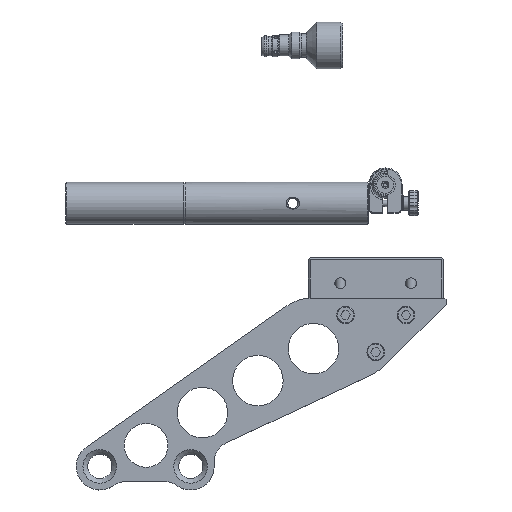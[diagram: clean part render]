
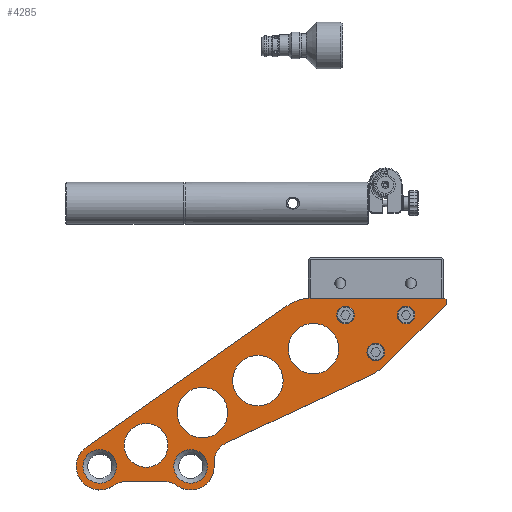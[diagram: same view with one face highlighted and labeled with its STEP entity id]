
A CAD part, top view. The second image highlights one B-rep face of the part: STEP entity #4285.
In plain terms, the highlighted planar face has unit normal (0, 0, 1).
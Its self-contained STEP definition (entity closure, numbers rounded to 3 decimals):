
#1212=LINE('',#22123,#2529);
#1216=LINE('',#22131,#2533);
#1218=LINE('',#22135,#2535);
#1220=LINE('',#22139,#2537);
#1222=LINE('',#22143,#2539);
#1225=LINE('',#22151,#2542);
#1228=LINE('',#22159,#2545);
#1232=LINE('',#22171,#2549);
#2529=VECTOR('',#16851,1.);
#2533=VECTOR('',#16857,1.);
#2535=VECTOR('',#16861,1.);
#2537=VECTOR('',#16865,1.);
#2539=VECTOR('',#16869,1.);
#2542=VECTOR('',#16878,1.);
#2545=VECTOR('',#16887,1.);
#2549=VECTOR('',#16901,1.);
#3544=FACE_BOUND('',#6250,.T.);
#3545=FACE_BOUND('',#6251,.T.);
#3546=FACE_BOUND('',#6252,.T.);
#3547=FACE_BOUND('',#6253,.T.);
#3548=FACE_BOUND('',#6254,.T.);
#3549=FACE_BOUND('',#6255,.T.);
#3550=FACE_BOUND('',#6256,.T.);
#3551=FACE_BOUND('',#6257,.T.);
#3552=FACE_BOUND('',#6258,.T.);
#3553=FACE_BOUND('',#6259,.T.);
#4285=ADVANCED_FACE('',(#3544,#3545,#3546,#3547,#3548,#3549,#3550,#3551,
#3552,#3553),#4810,.F.);
#4810=PLANE('',#14015);
#6250=EDGE_LOOP('',(#9370));
#6251=EDGE_LOOP('',(#9371));
#6252=EDGE_LOOP('',(#9372));
#6253=EDGE_LOOP('',(#9373));
#6254=EDGE_LOOP('',(#9374));
#6255=EDGE_LOOP('',(#9375));
#6256=EDGE_LOOP('',(#9376));
#6257=EDGE_LOOP('',(#9377));
#6258=EDGE_LOOP('',(#9378));
#6259=EDGE_LOOP('',(#9379,#9380,#9381,#9382,#9383,#9384,#9385,#9386,#9387,
#9388,#9389,#9390,#9391,#9392,#9393));
#9370=ORIENTED_EDGE('',*,*,#12640,.T.);
#9371=ORIENTED_EDGE('',*,*,#12641,.T.);
#9372=ORIENTED_EDGE('',*,*,#12642,.T.);
#9373=ORIENTED_EDGE('',*,*,#12643,.T.);
#9374=ORIENTED_EDGE('',*,*,#12644,.T.);
#9375=ORIENTED_EDGE('',*,*,#12645,.T.);
#9376=ORIENTED_EDGE('',*,*,#12646,.T.);
#9377=ORIENTED_EDGE('',*,*,#12647,.T.);
#9378=ORIENTED_EDGE('',*,*,#12648,.T.);
#9379=ORIENTED_EDGE('',*,*,#12615,.F.);
#9380=ORIENTED_EDGE('',*,*,#12649,.T.);
#9381=ORIENTED_EDGE('',*,*,#12611,.F.);
#9382=ORIENTED_EDGE('',*,*,#12639,.F.);
#9383=ORIENTED_EDGE('',*,*,#12637,.F.);
#9384=ORIENTED_EDGE('',*,*,#12635,.F.);
#9385=ORIENTED_EDGE('',*,*,#12633,.F.);
#9386=ORIENTED_EDGE('',*,*,#12631,.F.);
#9387=ORIENTED_EDGE('',*,*,#12629,.F.);
#9388=ORIENTED_EDGE('',*,*,#12627,.F.);
#9389=ORIENTED_EDGE('',*,*,#12625,.F.);
#9390=ORIENTED_EDGE('',*,*,#12623,.F.);
#9391=ORIENTED_EDGE('',*,*,#12621,.F.);
#9392=ORIENTED_EDGE('',*,*,#12619,.F.);
#9393=ORIENTED_EDGE('',*,*,#12617,.F.);
#10965=VERTEX_POINT('',#22124);
#10966=VERTEX_POINT('',#22125);
#10967=VERTEX_POINT('',#22130);
#10968=VERTEX_POINT('',#22132);
#10969=VERTEX_POINT('',#22136);
#10970=VERTEX_POINT('',#22140);
#10971=VERTEX_POINT('',#22144);
#10972=VERTEX_POINT('',#22148);
#10973=VERTEX_POINT('',#22152);
#10974=VERTEX_POINT('',#22156);
#10975=VERTEX_POINT('',#22160);
#10976=VERTEX_POINT('',#22164);
#10977=VERTEX_POINT('',#22168);
#10978=VERTEX_POINT('',#22172);
#10979=VERTEX_POINT('',#22176);
#10980=VERTEX_POINT('',#22182);
#10981=VERTEX_POINT('',#22184);
#10982=VERTEX_POINT('',#22186);
#10983=VERTEX_POINT('',#22188);
#10984=VERTEX_POINT('',#22190);
#10985=VERTEX_POINT('',#22192);
#10986=VERTEX_POINT('',#22194);
#10987=VERTEX_POINT('',#22196);
#10988=VERTEX_POINT('',#22198);
#12611=EDGE_CURVE('',#10965,#10966,#1212,.T.);
#12615=EDGE_CURVE('',#10967,#10968,#1216,.T.);
#12617=EDGE_CURVE('',#10968,#10969,#1218,.T.);
#12619=EDGE_CURVE('',#10969,#10970,#1220,.T.);
#12621=EDGE_CURVE('',#10970,#10971,#1222,.T.);
#12623=EDGE_CURVE('',#10971,#10972,#13148,.T.);
#12625=EDGE_CURVE('',#10972,#10973,#1225,.T.);
#12627=EDGE_CURVE('',#10973,#10974,#13149,.T.);
#12629=EDGE_CURVE('',#10974,#10975,#1228,.T.);
#12631=EDGE_CURVE('',#10975,#10976,#13150,.T.);
#12633=EDGE_CURVE('',#10976,#10977,#13151,.T.);
#12635=EDGE_CURVE('',#10977,#10978,#1232,.T.);
#12637=EDGE_CURVE('',#10978,#10979,#13152,.T.);
#12639=EDGE_CURVE('',#10979,#10965,#13153,.T.);
#12640=EDGE_CURVE('',#10980,#10980,#13154,.T.);
#12641=EDGE_CURVE('',#10981,#10981,#13155,.T.);
#12642=EDGE_CURVE('',#10982,#10982,#13156,.T.);
#12643=EDGE_CURVE('',#10983,#10983,#13157,.T.);
#12644=EDGE_CURVE('',#10984,#10984,#13158,.T.);
#12645=EDGE_CURVE('',#10985,#10985,#13159,.T.);
#12646=EDGE_CURVE('',#10986,#10986,#13160,.T.);
#12647=EDGE_CURVE('',#10987,#10987,#13161,.T.);
#12648=EDGE_CURVE('',#10988,#10988,#13162,.T.);
#12649=EDGE_CURVE('',#10967,#10966,#13163,.T.);
#13148=CIRCLE('',#13990,30.);
#13149=CIRCLE('',#13993,12.);
#13150=CIRCLE('',#13996,14.);
#13151=CIRCLE('',#13998,12.);
#13152=CIRCLE('',#14001,12.);
#13153=CIRCLE('',#14003,14.);
#13154=CIRCLE('',#14005,5.25);
#13155=CIRCLE('',#14006,5.25);
#13156=CIRCLE('',#14007,5.25);
#13157=CIRCLE('',#14008,15.);
#13158=CIRCLE('',#14009,15.);
#13159=CIRCLE('',#14010,15.);
#13160=CIRCLE('',#14011,13.);
#13161=CIRCLE('',#14012,10.);
#13162=CIRCLE('',#14013,10.);
#13163=CIRCLE('',#14014,25.);
#13990=AXIS2_PLACEMENT_3D('',#22147,#16873,#16874);
#13993=AXIS2_PLACEMENT_3D('',#22155,#16882,#16883);
#13996=AXIS2_PLACEMENT_3D('',#22163,#16891,#16892);
#13998=AXIS2_PLACEMENT_3D('',#22167,#16896,#16897);
#14001=AXIS2_PLACEMENT_3D('',#22175,#16905,#16906);
#14003=AXIS2_PLACEMENT_3D('',#22179,#16910,#16911);
#14005=AXIS2_PLACEMENT_3D('',#22181,#16914,#16915);
#14006=AXIS2_PLACEMENT_3D('',#22183,#16916,#16917);
#14007=AXIS2_PLACEMENT_3D('',#22185,#16918,#16919);
#14008=AXIS2_PLACEMENT_3D('',#22187,#16920,#16921);
#14009=AXIS2_PLACEMENT_3D('',#22189,#16922,#16923);
#14010=AXIS2_PLACEMENT_3D('',#22191,#16924,#16925);
#14011=AXIS2_PLACEMENT_3D('',#22193,#16926,#16927);
#14012=AXIS2_PLACEMENT_3D('',#22195,#16928,#16929);
#14013=AXIS2_PLACEMENT_3D('',#22197,#16930,#16931);
#14014=AXIS2_PLACEMENT_3D('',#22199,#16932,#16933);
#14015=AXIS2_PLACEMENT_3D('',#22200,#16934,#16935);
#16851=DIRECTION('',(0.818,0.576,0.));
#16857=DIRECTION('',(1.,0.,0.));
#16861=DIRECTION('',(0.707,-0.707,0.));
#16865=DIRECTION('',(0.,-1.,0.));
#16869=DIRECTION('',(-0.71,-0.704,0.));
#16873=DIRECTION('',(0.,0.,-1.));
#16874=DIRECTION('',(1.,0.,0.));
#16878=DIRECTION('',(-0.905,-0.425,0.));
#16882=DIRECTION('',(0.,0.,1.));
#16883=DIRECTION('',(1.,0.,0.));
#16887=DIRECTION('',(0.,-1.,0.));
#16891=DIRECTION('',(0.,0.,-1.));
#16892=DIRECTION('',(1.,0.,0.));
#16896=DIRECTION('',(0.,0.,1.));
#16897=DIRECTION('',(1.,0.,0.));
#16901=DIRECTION('',(-1.,0.,0.));
#16905=DIRECTION('',(0.,0.,1.));
#16906=DIRECTION('',(1.,0.,0.));
#16910=DIRECTION('',(0.,0.,-1.));
#16911=DIRECTION('',(1.,0.,0.));
#16914=DIRECTION('',(0.,0.,-1.));
#16915=DIRECTION('',(-1.,0.,0.));
#16916=DIRECTION('',(0.,0.,-1.));
#16917=DIRECTION('',(-1.,0.,0.));
#16918=DIRECTION('',(0.,0.,-1.));
#16919=DIRECTION('',(-1.,0.,0.));
#16920=DIRECTION('',(0.,0.,-1.));
#16921=DIRECTION('',(-1.,0.,0.));
#16922=DIRECTION('',(0.,0.,-1.));
#16923=DIRECTION('',(-1.,0.,0.));
#16924=DIRECTION('',(0.,0.,-1.));
#16925=DIRECTION('',(-1.,0.,0.));
#16926=DIRECTION('',(0.,0.,-1.));
#16927=DIRECTION('',(-1.,0.,0.));
#16928=DIRECTION('',(0.,0.,-1.));
#16929=DIRECTION('',(-1.,0.,0.));
#16930=DIRECTION('',(0.,0.,-1.));
#16931=DIRECTION('',(-1.,0.,0.));
#16932=DIRECTION('',(0.,0.,1.));
#16933=DIRECTION('',(-1.,0.,0.));
#16934=DIRECTION('',(0.,0.,-1.));
#16935=DIRECTION('',(-1.,0.,0.));
#22123=CARTESIAN_POINT('',(874.67,-917.422,12.));
#22124=CARTESIAN_POINT('',(874.67,-917.422,12.));
#22125=CARTESIAN_POINT('',(993.956,-833.428,12.));
#22130=CARTESIAN_POINT('',(1008.349,-828.869,12.));
#22131=CARTESIAN_POINT('',(1000.43,-828.869,12.));
#22132=CARTESIAN_POINT('',(1087.73,-828.869,12.));
#22135=CARTESIAN_POINT('',(1087.73,-828.869,12.));
#22136=CARTESIAN_POINT('',(1088.73,-829.869,12.));
#22139=CARTESIAN_POINT('',(1088.73,-829.869,12.));
#22140=CARTESIAN_POINT('',(1088.73,-832.369,12.));
#22143=CARTESIAN_POINT('',(1088.73,-832.369,12.));
#22144=CARTESIAN_POINT('',(1051.964,-868.861,12.));
#22147=CARTESIAN_POINT('',(1030.83,-847.569,12.));
#22148=CARTESIAN_POINT('',(1043.584,-874.723,12.));
#22151=CARTESIAN_POINT('',(1043.584,-874.723,12.));
#22152=CARTESIAN_POINT('',(957.629,-915.095,12.));
#22155=CARTESIAN_POINT('',(962.73,-925.957,12.));
#22156=CARTESIAN_POINT('',(950.73,-925.957,12.));
#22159=CARTESIAN_POINT('',(950.73,-925.957,12.));
#22160=CARTESIAN_POINT('',(950.73,-928.869,12.));
#22163=CARTESIAN_POINT('',(936.73,-928.869,12.));
#22164=CARTESIAN_POINT('',(928.476,-940.177,12.));
#22167=CARTESIAN_POINT('',(921.401,-949.869,12.));
#22168=CARTESIAN_POINT('',(921.401,-937.869,12.));
#22171=CARTESIAN_POINT('',(921.401,-937.869,12.));
#22172=CARTESIAN_POINT('',(898.06,-937.869,12.));
#22175=CARTESIAN_POINT('',(898.06,-949.869,12.));
#22176=CARTESIAN_POINT('',(890.985,-940.177,12.));
#22179=CARTESIAN_POINT('',(882.73,-928.869,12.));
#22181=CARTESIAN_POINT('',(1064.73,-838.869,12.));
#22182=CARTESIAN_POINT('',(1059.48,-838.869,12.));
#22183=CARTESIAN_POINT('',(1028.73,-838.869,12.));
#22184=CARTESIAN_POINT('',(1023.48,-838.869,12.));
#22185=CARTESIAN_POINT('',(1046.73,-860.869,12.));
#22186=CARTESIAN_POINT('',(1041.48,-860.869,12.));
#22187=CARTESIAN_POINT('',(1009.73,-858.869,12.));
#22188=CARTESIAN_POINT('',(994.73,-858.869,12.));
#22189=CARTESIAN_POINT('',(976.73,-877.869,12.));
#22190=CARTESIAN_POINT('',(961.73,-877.869,12.));
#22191=CARTESIAN_POINT('',(943.73,-896.869,12.));
#22192=CARTESIAN_POINT('',(928.73,-896.869,12.));
#22193=CARTESIAN_POINT('',(910.23,-916.369,12.));
#22194=CARTESIAN_POINT('',(897.23,-916.369,12.));
#22195=CARTESIAN_POINT('',(936.73,-928.869,12.));
#22196=CARTESIAN_POINT('',(926.73,-928.869,12.));
#22197=CARTESIAN_POINT('',(882.73,-928.869,12.));
#22198=CARTESIAN_POINT('',(872.73,-928.869,12.));
#22199=CARTESIAN_POINT('',(1008.349,-853.869,12.));
#22200=CARTESIAN_POINT('',(1030.83,-847.569,12.));
